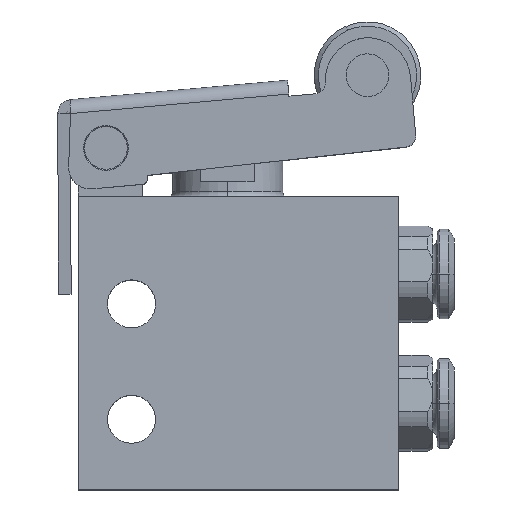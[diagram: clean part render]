
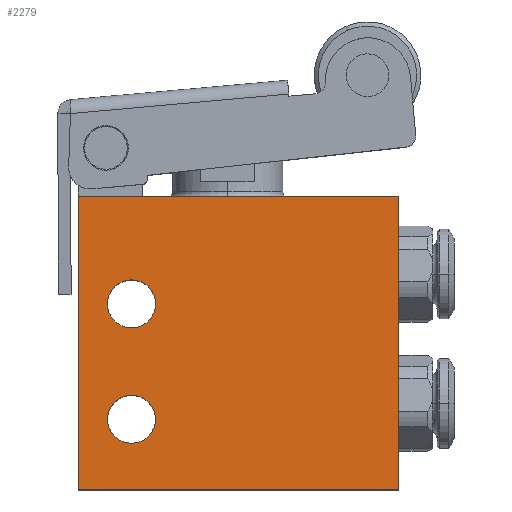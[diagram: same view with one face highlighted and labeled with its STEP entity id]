
A CAD part, top view. The second image highlights one B-rep face of the part: STEP entity #2279.
In plain terms, the highlighted planar face has unit normal (0, 0, 1).
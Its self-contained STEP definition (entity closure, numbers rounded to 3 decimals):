
#193 = VERTEX_POINT ( 'NONE', #4842 ) ;
#275 = ORIENTED_EDGE ( 'NONE', *, *, #2848, .F. ) ;
#383 = CARTESIAN_POINT ( 'NONE',  ( -7.75, 0.15, 7.5 ) ) ;
#384 = LINE ( 'NONE', #3994, #8845 ) ;
#450 = DIRECTION ( 'NONE',  ( 0., 0., 1. ) ) ;
#522 = ORIENTED_EDGE ( 'NONE', *, *, #9472, .T. ) ;
#901 = DIRECTION ( 'NONE',  ( -1., 0., 0. ) ) ;
#918 = CARTESIAN_POINT ( 'NONE',  ( -15., -17.25, 7.5 ) ) ;
#1317 = CIRCLE ( 'NONE', #8059, 2.25 ) ;
#1419 = CARTESIAN_POINT ( 'NONE',  ( 15., 10.25, 7.5 ) ) ;
#1521 = VERTEX_POINT ( 'NONE', #5784 ) ;
#1669 = CARTESIAN_POINT ( 'NONE',  ( -10., 0.15, 7.5 ) ) ;
#1787 = PLANE ( 'NONE',  #5984 ) ;
#1909 = AXIS2_PLACEMENT_3D ( 'NONE', #1669, #9040, #7382 ) ;
#2083 = VERTEX_POINT ( 'NONE', #1419 ) ;
#2140 = FACE_BOUND ( 'NONE', #6619, .T. ) ;
#2145 = DIRECTION ( 'NONE',  ( 0., 0., 1. ) ) ;
#2279 = ADVANCED_FACE ( 'NONE', ( #2140, #3780, #9226 ), #1787, .F. ) ;
#2506 = ORIENTED_EDGE ( 'NONE', *, *, #6436, .T. ) ;
#2547 = CARTESIAN_POINT ( 'NONE',  ( 0., 0., 7.5 ) ) ;
#2848 = EDGE_CURVE ( 'NONE', #193, #2083, #8664, .T. ) ;
#2971 = EDGE_LOOP ( 'NONE', ( #8212, #8476 ) ) ;
#3115 = AXIS2_PLACEMENT_3D ( 'NONE', #5337, #450, #10260 ) ;
#3312 = CIRCLE ( 'NONE', #5131, 2.25 ) ;
#3318 = ORIENTED_EDGE ( 'NONE', *, *, #5216, .T. ) ;
#3488 = DIRECTION ( 'NONE',  ( 0., 0., 1. ) ) ;
#3754 = VECTOR ( 'NONE', #8741, 1000. ) ;
#3780 = FACE_BOUND ( 'NONE', #2971, .T. ) ;
#3994 = CARTESIAN_POINT ( 'NONE',  ( 15., -17.25, 7.5 ) ) ;
#4091 = EDGE_LOOP ( 'NONE', ( #275, #2506, #3318, #522 ) ) ;
#4302 = EDGE_CURVE ( 'NONE', #5025, #1521, #10159, .T. ) ;
#4410 = VERTEX_POINT ( 'NONE', #8524 ) ;
#4698 = EDGE_CURVE ( 'NONE', #1521, #5025, #3312, .T. ) ;
#4842 = CARTESIAN_POINT ( 'NONE',  ( -15., 10.25, 7.5 ) ) ;
#4901 = CARTESIAN_POINT ( 'NONE',  ( -12.25, 0.15, 7.5 ) ) ;
#5025 = VERTEX_POINT ( 'NONE', #8754 ) ;
#5131 = AXIS2_PLACEMENT_3D ( 'NONE', #5918, #3488, #9890 ) ;
#5216 = EDGE_CURVE ( 'NONE', #4410, #9893, #6175, .T. ) ;
#5337 = CARTESIAN_POINT ( 'NONE',  ( -10., -10.65, 7.5 ) ) ;
#5433 = CARTESIAN_POINT ( 'NONE',  ( -10., 0.15, 7.5 ) ) ;
#5784 = CARTESIAN_POINT ( 'NONE',  ( -7.75, -10.65, 7.5 ) ) ;
#5853 = ORIENTED_EDGE ( 'NONE', *, *, #9513, .F. ) ;
#5918 = CARTESIAN_POINT ( 'NONE',  ( -10., -10.65, 7.5 ) ) ;
#5984 = AXIS2_PLACEMENT_3D ( 'NONE', #2547, #7438, #901 ) ;
#6175 = LINE ( 'NONE', #7940, #3754 ) ;
#6392 = DIRECTION ( 'NONE',  ( 1., 0., 0. ) ) ;
#6436 = EDGE_CURVE ( 'NONE', #193, #4410, #8662, .T. ) ;
#6591 = CIRCLE ( 'NONE', #1909, 2.25 ) ;
#6619 = EDGE_LOOP ( 'NONE', ( #6787, #5853 ) ) ;
#6787 = ORIENTED_EDGE ( 'NONE', *, *, #8043, .F. ) ;
#7036 = VERTEX_POINT ( 'NONE', #4901 ) ;
#7382 = DIRECTION ( 'NONE',  ( 1., 0., 0. ) ) ;
#7393 = DIRECTION ( 'NONE',  ( 0., -1., 0. ) ) ;
#7438 = DIRECTION ( 'NONE',  ( 0., 0., -1. ) ) ;
#7940 = CARTESIAN_POINT ( 'NONE',  ( -15., -17.25, 7.5 ) ) ;
#7974 = CARTESIAN_POINT ( 'NONE',  ( 15., 10.25, 7.5 ) ) ;
#8043 = EDGE_CURVE ( 'NONE', #10213, #7036, #1317, .T. ) ;
#8059 = AXIS2_PLACEMENT_3D ( 'NONE', #5433, #2145, #9437 ) ;
#8096 = DIRECTION ( 'NONE',  ( 0., 1., 0. ) ) ;
#8212 = ORIENTED_EDGE ( 'NONE', *, *, #4698, .F. ) ;
#8476 = ORIENTED_EDGE ( 'NONE', *, *, #4302, .F. ) ;
#8524 = CARTESIAN_POINT ( 'NONE',  ( -15., -17.25, 7.5 ) ) ;
#8662 = LINE ( 'NONE', #918, #10319 ) ;
#8664 = LINE ( 'NONE', #7974, #9960 ) ;
#8741 = DIRECTION ( 'NONE',  ( 1., 0., 0. ) ) ;
#8754 = CARTESIAN_POINT ( 'NONE',  ( -12.25, -10.65, 7.5 ) ) ;
#8845 = VECTOR ( 'NONE', #8096, 1000. ) ;
#9040 = DIRECTION ( 'NONE',  ( 0., 0., 1. ) ) ;
#9226 = FACE_OUTER_BOUND ( 'NONE', #4091, .T. ) ;
#9437 = DIRECTION ( 'NONE',  ( 1., 0., 0. ) ) ;
#9465 = CARTESIAN_POINT ( 'NONE',  ( 15., -17.25, 7.5 ) ) ;
#9472 = EDGE_CURVE ( 'NONE', #9893, #2083, #384, .T. ) ;
#9513 = EDGE_CURVE ( 'NONE', #7036, #10213, #6591, .T. ) ;
#9890 = DIRECTION ( 'NONE',  ( 1., 0., 0. ) ) ;
#9893 = VERTEX_POINT ( 'NONE', #9465 ) ;
#9960 = VECTOR ( 'NONE', #6392, 1000. ) ;
#10159 = CIRCLE ( 'NONE', #3115, 2.25 ) ;
#10213 = VERTEX_POINT ( 'NONE', #383 ) ;
#10260 = DIRECTION ( 'NONE',  ( 1., 0., 0. ) ) ;
#10319 = VECTOR ( 'NONE', #7393, 1000. ) ;
